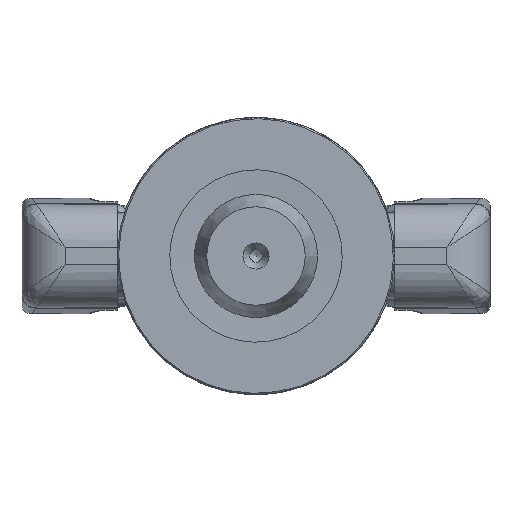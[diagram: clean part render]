
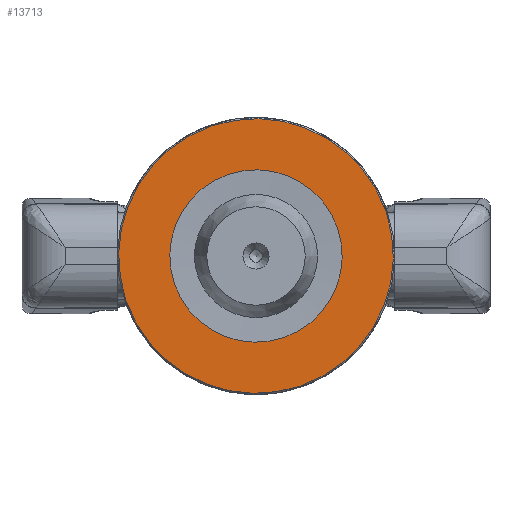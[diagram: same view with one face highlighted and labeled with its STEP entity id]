
A CAD part, front view. The second image highlights one B-rep face of the part: STEP entity #13713.
In plain terms, the highlighted planar face has unit normal (0, -1, 0) as drawn and (0, 0, -1) by its records, which use the part's own axes.
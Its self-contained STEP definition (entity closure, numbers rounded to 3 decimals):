
#305=FACE_BOUND('',#4255,.T.);
#776=CIRCLE('',#14796,22.3);
#778=CIRCLE('',#14800,14.);
#2569=PLANE('',#14799);
#3369=FACE_OUTER_BOUND('',#4254,.T.);
#4254=EDGE_LOOP('',(#12543));
#4255=EDGE_LOOP('',(#12544));
#6409=VERTEX_POINT('',#44253);
#6411=VERTEX_POINT('',#44259);
#8457=EDGE_CURVE('',#6409,#6409,#776,.T.);
#8459=EDGE_CURVE('',#6411,#6411,#778,.T.);
#12543=ORIENTED_EDGE('',*,*,#8457,.F.);
#12544=ORIENTED_EDGE('',*,*,#8459,.F.);
#13713=ADVANCED_FACE('',(#3369,#305),#2569,.F.);
#14796=AXIS2_PLACEMENT_3D('',#44254,#17571,#17572);
#14799=AXIS2_PLACEMENT_3D('',#44258,#17577,#17578);
#14800=AXIS2_PLACEMENT_3D('',#44260,#17579,#17580);
#17571=DIRECTION('center_axis',(0.,0.,1.));
#17572=DIRECTION('ref_axis',(-1.,0.,0.));
#17577=DIRECTION('center_axis',(0.,0.,1.));
#17578=DIRECTION('ref_axis',(1.,0.,0.));
#17579=DIRECTION('center_axis',(0.,0.,-1.));
#17580=DIRECTION('ref_axis',(-1.,0.,0.));
#44253=CARTESIAN_POINT('',(22.3,0.,0.));
#44254=CARTESIAN_POINT('Origin',(0.,0.,0.));
#44258=CARTESIAN_POINT('Origin',(0.,0.,0.));
#44259=CARTESIAN_POINT('',(14.,0.,0.));
#44260=CARTESIAN_POINT('Origin',(0.,0.,0.));
